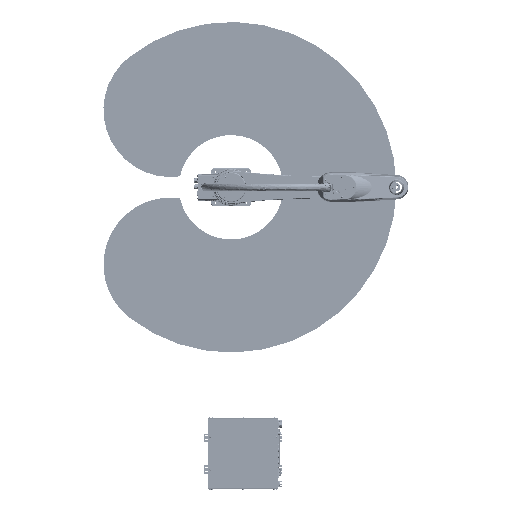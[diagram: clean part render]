
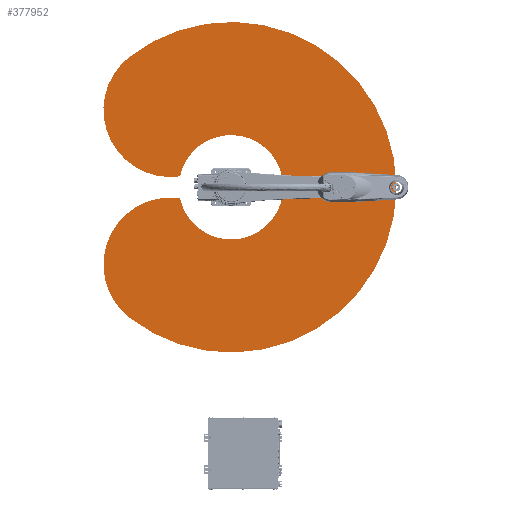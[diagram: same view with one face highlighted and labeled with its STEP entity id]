
A CAD part, left-side view. The second image highlights one B-rep face of the part: STEP entity #377952.
In plain terms, the highlighted planar face has unit normal (-1, 0, 0) as drawn and (0, 1, 0) by its records, which use the part's own axes.
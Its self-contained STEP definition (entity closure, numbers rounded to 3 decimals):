
#9305 = EDGE_CURVE ( 'NONE', #62040, #65690, #42401, .T. ) ;
#14929 = ORIENTED_EDGE ( 'NONE', *, *, #56246, .T. ) ;
#16987 = CARTESIAN_POINT ( 'NONE',  ( 630.409, 200., 492.529 ) ) ;
#28930 = VERTEX_POINT ( 'NONE', #410248 ) ;
#31327 = CIRCLE ( 'NONE', #159599, 325. ) ;
#37251 = CARTESIAN_POINT ( 'NONE',  ( 0., 200., 0. ) ) ;
#42401 = CIRCLE ( 'NONE', #238086, 800. ) ;
#42591 = FACE_OUTER_BOUND ( 'NONE', #405041, .T. ) ;
#49905 = DIRECTION ( 'NONE',  ( 0., 0., 1. ) ) ;
#52427 = CARTESIAN_POINT ( 'NONE',  ( -52.468, 200., 247.208 ) ) ;
#53661 = AXIS2_PLACEMENT_3D ( 'NONE', #99746, #165319, #391722 ) ;
#56246 = EDGE_CURVE ( 'NONE', #63462, #206299, #271408, .T. ) ;
#62040 = VERTEX_POINT ( 'NONE', #16987 ) ;
#63462 = VERTEX_POINT ( 'NONE', #52427 ) ;
#65316 = ORIENTED_EDGE ( 'NONE', *, *, #138113, .T. ) ;
#65690 = VERTEX_POINT ( 'NONE', #386719 ) ;
#73096 = DIRECTION ( 'NONE',  ( 0., -1., 0. ) ) ;
#78708 = DIRECTION ( 'NONE',  ( 0., 1., 0. ) ) ;
#96450 = ORIENTED_EDGE ( 'NONE', *, *, #9305, .T. ) ;
#99746 = CARTESIAN_POINT ( 'NONE',  ( 187.153, 200., 146.22 ) ) ;
#110643 = EDGE_CURVE ( 'NONE', #65690, #28930, #410355, .T. ) ;
#112481 = DIRECTION ( 'NONE',  ( 0., 1., 0. ) ) ;
#138113 = EDGE_CURVE ( 'NONE', #206299, #161948, #360622, .T. ) ;
#143623 = CARTESIAN_POINT ( 'NONE',  ( -374.305, 200., 292.439 ) ) ;
#149270 = DIRECTION ( 'NONE',  ( 0., 1., 0. ) ) ;
#154173 = DIRECTION ( 'NONE',  ( 0., -1., 0. ) ) ;
#159599 = AXIS2_PLACEMENT_3D ( 'NONE', #201493, #78708, #267110 ) ;
#161948 = VERTEX_POINT ( 'NONE', #344469 ) ;
#165319 = DIRECTION ( 'NONE',  ( 0., 1., 0. ) ) ;
#171227 = DIRECTION ( 'NONE',  ( 0., 0., -1. ) ) ;
#201493 = CARTESIAN_POINT ( 'NONE',  ( 374.305, 200., 292.439 ) ) ;
#203558 = DIRECTION ( 'NONE',  ( 0., 0., 1. ) ) ;
#206299 = VERTEX_POINT ( 'NONE', #233325 ) ;
#215581 = CARTESIAN_POINT ( 'NONE',  ( 0., 200., 0. ) ) ;
#231820 = EDGE_CURVE ( 'NONE', #161948, #62040, #31327, .T. ) ;
#233325 = CARTESIAN_POINT ( 'NONE',  ( 0., 200., -252.715 ) ) ;
#237576 = AXIS2_PLACEMENT_3D ( 'NONE', #215581, #154173, #412320 ) ;
#238086 = AXIS2_PLACEMENT_3D ( 'NONE', #398210, #112481, #203558 ) ;
#243677 = ORIENTED_EDGE ( 'NONE', *, *, #337651, .T. ) ;
#267110 = DIRECTION ( 'NONE',  ( 0., 0., 1. ) ) ;
#271408 = CIRCLE ( 'NONE', #237576, 252.715 ) ;
#298595 = PLANE ( 'NONE',  #53661 ) ;
#303671 = DIRECTION ( 'NONE',  ( 0., 0., 1. ) ) ;
#306564 = AXIS2_PLACEMENT_3D ( 'NONE', #37251, #73096, #303671 ) ;
#315614 = ORIENTED_EDGE ( 'NONE', *, *, #110643, .T. ) ;
#328843 = CIRCLE ( 'NONE', #356059, 325. ) ;
#337651 = EDGE_CURVE ( 'NONE', #28930, #63462, #328843, .T. ) ;
#341911 = CARTESIAN_POINT ( 'NONE',  ( 0., 200., 0. ) ) ;
#344469 = CARTESIAN_POINT ( 'NONE',  ( 52.468, 200., 247.208 ) ) ;
#356059 = AXIS2_PLACEMENT_3D ( 'NONE', #143623, #363844, #171227 ) ;
#360622 = CIRCLE ( 'NONE', #306564, 252.715 ) ;
#362949 = AXIS2_PLACEMENT_3D ( 'NONE', #341911, #149270, #49905 ) ;
#363844 = DIRECTION ( 'NONE',  ( 0., 1., 0. ) ) ;
#377952 = ADVANCED_FACE ( 'NONE', ( #42591 ), #298595, .T. ) ;
#386719 = CARTESIAN_POINT ( 'NONE',  ( 0., 200., -800. ) ) ;
#391722 = DIRECTION ( 'NONE',  ( 0., 0., 1. ) ) ;
#398210 = CARTESIAN_POINT ( 'NONE',  ( 0., 200., 0. ) ) ;
#403455 = ORIENTED_EDGE ( 'NONE', *, *, #231820, .T. ) ;
#405041 = EDGE_LOOP ( 'NONE', ( #403455, #96450, #315614, #243677, #14929, #65316 ) ) ;
#410248 = CARTESIAN_POINT ( 'NONE',  ( -630.409, 200., 492.529 ) ) ;
#410355 = CIRCLE ( 'NONE', #362949, 800. ) ;
#412320 = DIRECTION ( 'NONE',  ( 0., 0., 1. ) ) ;
